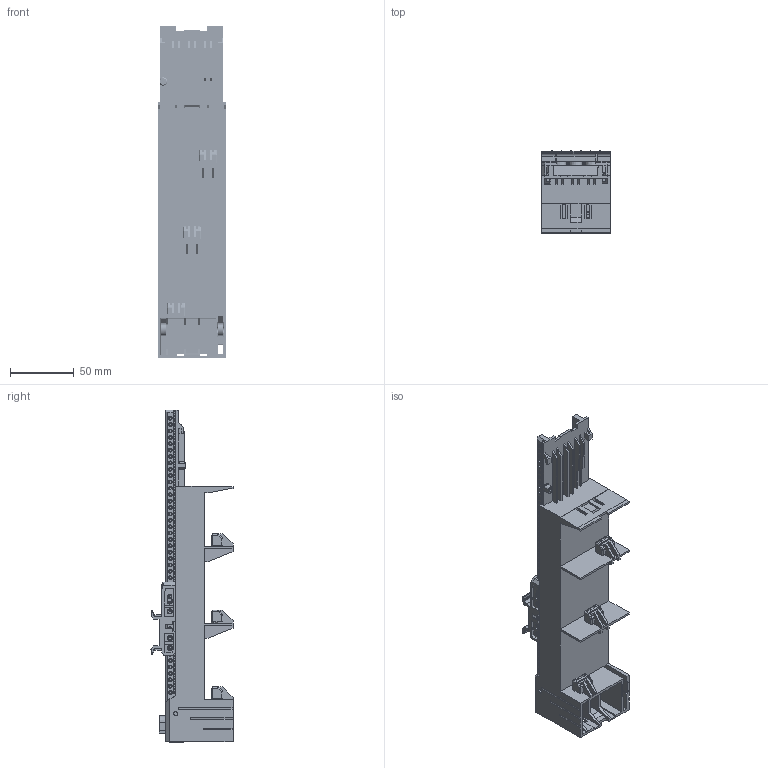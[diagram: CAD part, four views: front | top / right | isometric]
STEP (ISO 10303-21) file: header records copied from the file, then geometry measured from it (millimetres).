
FILE_DESCRIPTION (( 'STEP AP203' ), '1' );
FILE_NAME ('55301.STEP', '2021-08-18T06:58:50', ( '' ), ( '' ), 'SwSTEP 2.0', 'SolidWorks 2017', '' );
FILE_SCHEMA (( 'CONFIG_CONTROL_DESIGN' ));
Products named in the file (2): 55301
Bounding box: 54.05 x 64.3 x 260.2 mm (x, y, z)
Volume: 284115.8 mm3; surface area: 108771.8 mm2
Topology: 8 solids, 15 shells, 3137 faces, 8947 edges, 5987 vertices
Faces by surface type: plane 2168, cylinder 628, cone 224, bspline 114, torus 3
Full cylindrical faces by diameter (mm): 1.988 x176, 2.584 x1, 2.982 x8, 3.479 x4, 5 x36, 5.169 x2, 5.964 x7
Entity records: 152762 total; most frequent: CARTESIAN_POINT 78105, ORIENTED_EDGE 16582, DIRECTION 12828, EDGE_CURVE 8291, VERTEX_POINT 5769, VECTOR 5140, LINE 5140, AXIS2_PLACEMENT_3D 3844
